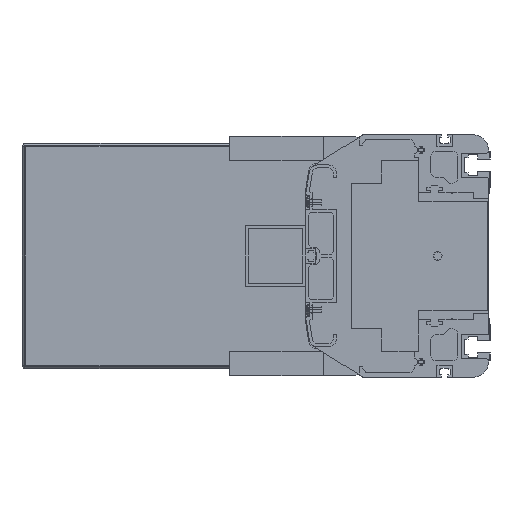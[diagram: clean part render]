
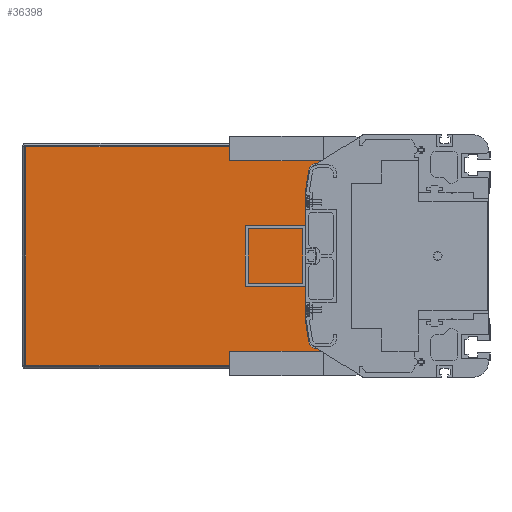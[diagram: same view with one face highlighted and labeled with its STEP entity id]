
A CAD part, left-side view. The second image highlights one B-rep face of the part: STEP entity #36398.
In plain terms, the highlighted planar face has unit normal (-1, 0, 0).
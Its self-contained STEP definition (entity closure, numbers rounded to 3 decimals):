
#2988=DIRECTION('',(0.,0.,-1.));
#2989=VECTOR('',#2988,11.);
#2990=CARTESIAN_POINT('',(3686.5,86.,-61.));
#2991=LINE('',#2990,#2989);
#2997=DIRECTION('',(0.,0.,-1.));
#2998=VECTOR('',#2997,11.);
#2999=CARTESIAN_POINT('',(3686.5,86.,72.));
#3000=LINE('',#2999,#2998);
#3010=DIRECTION('',(0.,-1.,0.));
#3011=VECTOR('',#3010,220.5);
#3012=CARTESIAN_POINT('',(3686.5,306.5,-72.));
#3013=LINE('',#3012,#3011);
#8312=DIRECTION('',(0.,1.,0.));
#8313=VECTOR('',#8312,28.728);
#8314=CARTESIAN_POINT('',(3686.5,86.,-61.));
#8315=LINE('',#8314,#8313);
#14562=DIRECTION('',(0.,-1.,0.));
#14563=VECTOR('',#14562,28.728);
#14564=CARTESIAN_POINT('',(3686.5,114.728,61.));
#14565=LINE('',#14564,#14563);
#14578=DIRECTION('',(0.,0.,1.));
#14579=VECTOR('',#14578,84.);
#14580=CARTESIAN_POINT('',(3686.5,122.,-42.));
#14581=LINE('',#14580,#14579);
#14590=CARTESIAN_POINT('',(3686.5,114.728,56.));
#14591=DIRECTION('',(-1.,0.,0.));
#14592=DIRECTION('',(0.,0.,1.));
#14593=AXIS2_PLACEMENT_3D('',#14590,#14591,#14592);
#14595=DIRECTION('',(0.,0.156,-0.988));
#14596=VECTOR('',#14595,14.963);
#14597=CARTESIAN_POINT('',(3686.5,119.666,56.78));
#14598=LINE('',#14597,#14596);
#14599=DIRECTION('',(0.,-0.156,-0.988));
#14600=VECTOR('',#14599,14.963);
#14601=CARTESIAN_POINT('',(3686.5,122.,-42.));
#14602=LINE('',#14601,#14600);
#14603=CARTESIAN_POINT('',(3686.5,114.728,-56.));
#14604=DIRECTION('',(-1.,0.,0.));
#14605=DIRECTION('',(0.,0.988,-0.156));
#14606=AXIS2_PLACEMENT_3D('',#14603,#14604,#14605);
#14612=DIRECTION('',(0.,0.,-1.));
#14613=VECTOR('',#14612,144.);
#14614=CARTESIAN_POINT('',(3686.5,306.5,72.));
#14615=LINE('',#14614,#14613);
#14781=DIRECTION('',(0.,1.,0.));
#14782=VECTOR('',#14781,220.5);
#14783=CARTESIAN_POINT('',(3686.5,86.,72.));
#14784=LINE('',#14783,#14782);
#17928=CARTESIAN_POINT('',(3686.5,306.5,-72.));
#17929=CARTESIAN_POINT('',(3686.5,86.,-72.));
#17930=VERTEX_POINT('',#17928);
#17931=VERTEX_POINT('',#17929);
#17932=CARTESIAN_POINT('',(3686.5,86.,-61.));
#17933=VERTEX_POINT('',#17932);
#17934=CARTESIAN_POINT('',(3686.5,114.728,-61.));
#17935=VERTEX_POINT('',#17934);
#17936=CARTESIAN_POINT('',(3686.5,119.666,-56.78));
#17937=VERTEX_POINT('',#17936);
#17938=CARTESIAN_POINT('',(3686.5,122.,-42.));
#17939=VERTEX_POINT('',#17938);
#17940=CARTESIAN_POINT('',(3686.5,122.,42.));
#17941=VERTEX_POINT('',#17940);
#17942=CARTESIAN_POINT('',(3686.5,119.666,56.78));
#17943=VERTEX_POINT('',#17942);
#17944=CARTESIAN_POINT('',(3686.5,114.728,61.));
#17945=VERTEX_POINT('',#17944);
#17946=CARTESIAN_POINT('',(3686.5,86.,61.));
#17947=VERTEX_POINT('',#17946);
#17948=CARTESIAN_POINT('',(3686.5,86.,72.));
#17949=VERTEX_POINT('',#17948);
#17950=CARTESIAN_POINT('',(3686.5,306.5,72.));
#17951=VERTEX_POINT('',#17950);
#36375=CARTESIAN_POINT('',(3686.5,196.25,0.));
#36376=DIRECTION('',(1.,0.,0.));
#36377=DIRECTION('',(0.,0.,-1.));
#36378=AXIS2_PLACEMENT_3D('',#36375,#36376,#36377);
#36379=PLANE('',#36378);
#36380=ORIENTED_EDGE('',*,*,#23332,.F.);
#36382=ORIENTED_EDGE('',*,*,#36381,.F.);
#36384=ORIENTED_EDGE('',*,*,#36383,.F.);
#36385=ORIENTED_EDGE('',*,*,#23314,.T.);
#36386=ORIENTED_EDGE('',*,*,#36327,.F.);
#36387=ORIENTED_EDGE('',*,*,#36340,.T.);
#36388=ORIENTED_EDGE('',*,*,#36356,.T.);
#36389=ORIENTED_EDGE('',*,*,#36366,.F.);
#36391=ORIENTED_EDGE('',*,*,#36390,.T.);
#36393=ORIENTED_EDGE('',*,*,#36392,.T.);
#36394=ORIENTED_EDGE('',*,*,#27904,.F.);
#36395=ORIENTED_EDGE('',*,*,#23282,.T.);
#36396=EDGE_LOOP('',(#36380,#36382,#36384,#36385,#36386,#36387,#36388,#36389,
#36391,#36393,#36394,#36395));
#36397=FACE_OUTER_BOUND('',#36396,.F.);
#36398=ADVANCED_FACE('',(#36397),#36379,.F.);
#14594=CIRCLE('',#14593,5.);
#14607=CIRCLE('',#14606,5.);
#23282=EDGE_CURVE('',#17933,#17931,#2991,.T.);
#23314=EDGE_CURVE('',#17949,#17947,#3000,.T.);
#23332=EDGE_CURVE('',#17930,#17931,#3013,.T.);
#27904=EDGE_CURVE('',#17933,#17935,#8315,.T.);
#36327=EDGE_CURVE('',#17945,#17947,#14565,.T.);
#36340=EDGE_CURVE('',#17945,#17943,#14594,.T.);
#36356=EDGE_CURVE('',#17943,#17941,#14598,.T.);
#36366=EDGE_CURVE('',#17939,#17941,#14581,.T.);
#36381=EDGE_CURVE('',#17951,#17930,#14615,.T.);
#36383=EDGE_CURVE('',#17949,#17951,#14784,.T.);
#36390=EDGE_CURVE('',#17939,#17937,#14602,.T.);
#36392=EDGE_CURVE('',#17937,#17935,#14607,.T.);
